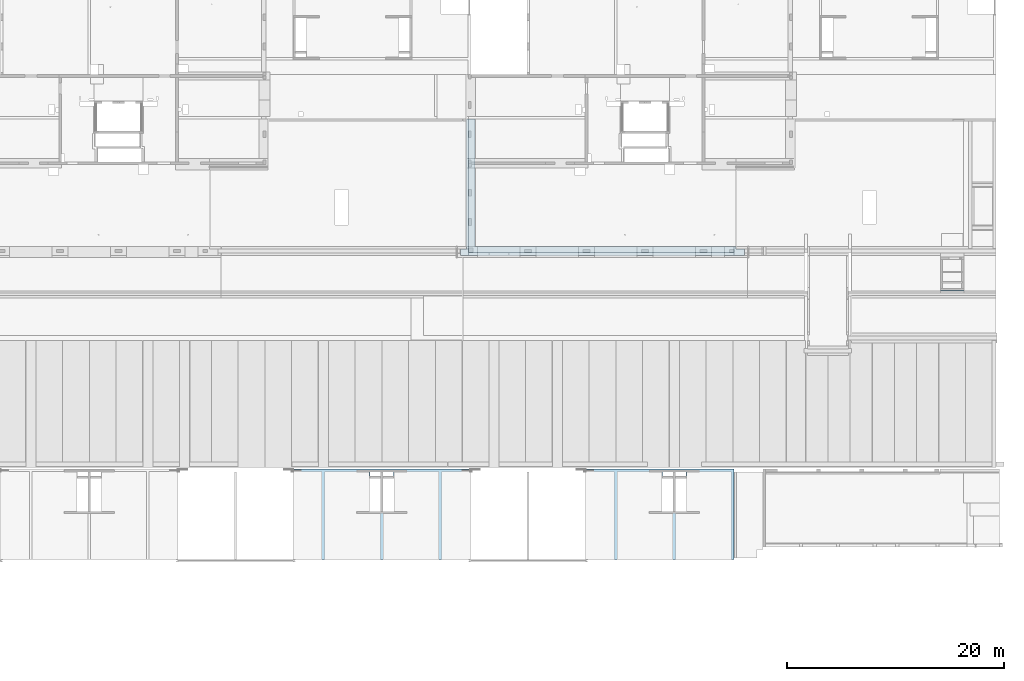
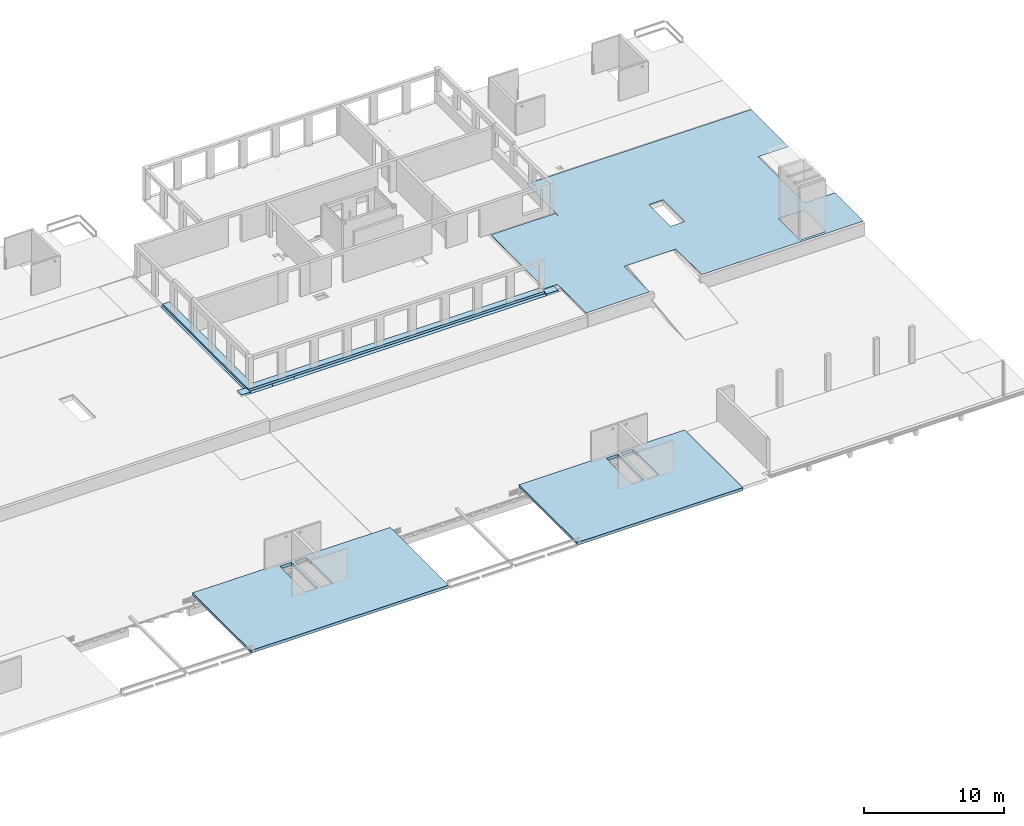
# One storey, part 34 of 36: 4 slabs.
"""IFC2X3 building model written with IfcOpenShell, lengths in millimetres."""

from ifc_helpers import new_model, entity, si_unit, converted_unit, derived_unit, direction, frame, origin, place, context, subcontext, project, spatial, faceted_brep, element, save


model = new_model("IFC2X3")

# Units and contexts
model_context = context("Model", 3, precision=0.01, world=origin(), true_north=direction((6.12303176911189e-17, 1.0)))
body_context = subcontext(model_context, "Body", "Model", "MODEL_VIEW")
ifc_project = project(units=[si_unit("LENGTHUNIT", "METRE", prefix="MILLI"), si_unit("AREAUNIT", "SQUARE_METRE"), si_unit("VOLUMEUNIT", "CUBIC_METRE"), converted_unit("PLANEANGLEUNIT", "DEGREE", entity("IfcRatioMeasure", 0.0174532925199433), si_unit("PLANEANGLEUNIT", "RADIAN"), dimensions=[0, 0, 0, 0, 0, 0, 0]), si_unit("MASSUNIT", "GRAM", prefix="KILO"), derived_unit("MASSDENSITYUNIT", [(si_unit("MASSUNIT", "GRAM", prefix="KILO"), 1), (si_unit("LENGTHUNIT", "METRE"), -3)]), si_unit("TIMEUNIT", "SECOND"), si_unit("FREQUENCYUNIT", "HERTZ"), si_unit("THERMODYNAMICTEMPERATUREUNIT", "DEGREE_CELSIUS"), derived_unit("THERMALTRANSMITTANCEUNIT", [(si_unit("MASSUNIT", "GRAM", prefix="KILO"), 1), (si_unit("THERMODYNAMICTEMPERATUREUNIT", "KELVIN"), -1), (si_unit("TIMEUNIT", "SECOND"), -3)]), derived_unit("VOLUMETRICFLOWRATEUNIT", [(si_unit("LENGTHUNIT", "METRE"), 3), (si_unit("TIMEUNIT", "SECOND"), -1)]), si_unit("ELECTRICCURRENTUNIT", "AMPERE"), si_unit("ELECTRICVOLTAGEUNIT", "VOLT"), si_unit("POWERUNIT", "WATT"), si_unit("FORCEUNIT", "NEWTON", prefix="KILO"), si_unit("ILLUMINANCEUNIT", "LUX"), si_unit("LUMINOUSFLUXUNIT", "LUMEN"), si_unit("LUMINOUSINTENSITYUNIT", "CANDELA"), derived_unit("USERDEFINED", [(si_unit("MASSUNIT", "GRAM", prefix="KILO"), -1), (si_unit("LENGTHUNIT", "METRE"), -2), (si_unit("TIMEUNIT", "SECOND"), 3), (si_unit("LUMINOUSFLUXUNIT", "LUMEN"), 1)]), derived_unit("LINEARVELOCITYUNIT", [(si_unit("LENGTHUNIT", "METRE"), 1), (si_unit("TIMEUNIT", "SECOND"), -1)]), si_unit("PRESSUREUNIT", "PASCAL"), derived_unit("USERDEFINED", [(si_unit("LENGTHUNIT", "METRE"), -2), (si_unit("MASSUNIT", "GRAM", prefix="KILO"), 1), (si_unit("TIMEUNIT", "SECOND"), -2)])], contexts=[model_context])

# Site, building, storey
site_placement = place(None, origin())
site = spatial("IfcSite", under=ifc_project, at=site_placement, Name="Default", CompositionType="ELEMENT")
building_placement = place(site_placement, origin())
building = spatial("IfcBuilding", under=site, at=building_placement, Name="niet gebruiken", CompositionType="ELEMENT")
storey_placement = place(building_placement, frame((0.0, 0.0, 12600.0)))
storey = spatial("IfcBuildingStorey", under=building, at=storey_placement, Name="04 vierde verdieping", CompositionType="ELEMENT", Elevation=12600.0)

# Slabs
slab_1_placement = place(storey_placement, origin())
element("IfcSlab", 1, at=slab_1_placement, inside=storey, Name="Floor:NLRS_23.21_FL_breedplaat d=70/250_schil apart_gen", ObjectType="Floor:NLRS_23.21_FL_breedplaat d=70/250_schil apart_gen", PredefinedType="FLOOR", context=body_context, shape_type="Brep", body=[
    faceted_brep([(59320.0, 8746.0, -340.0), (75680.0, 8746.0, -340.0), (75680.0, 8516.0, -340.0), (73005.0, 8516.0, -340.0), (73005.0, 420.0, -340.0), (75680.0, 420.0, -340.0), (75680.0, 400.0, -340.0), (59320.0, 400.0, -340.0), (59320.0, 420.0, -340.0), (61995.0, 420.0, -340.0), (61995.0, 8516.0, -340.0), (59320.0, 8516.0, -340.0), (68595.0, 8496.0, -340.0), (67625.0, 8496.0, -340.0), (67625.0, 4816.0, -340.0), (68625.0, 4816.0, -340.0), (68625.0, 4666.0, -340.0), (67605.0, 4666.0, -340.0), (67605.0, 420.0, -340.0), (72795.0, 420.0, -340.0), (72795.0, 8516.0, -340.0), (68625.0, 8516.0, -340.0), (68625.0, 7916.0, -340.0), (68595.0, 7916.0, -340.0), (67375.0, 8496.0, -340.0), (66405.0, 8496.0, -340.0), (66405.0, 7916.0, -340.0), (66375.0, 7916.0, -340.0), (66375.0, 8516.0, -340.0), (62205.0, 8516.0, -340.0), (62205.0, 420.0, -340.0), (67395.0, 420.0, -340.0), (67395.0, 4666.0, -340.0), (66375.0, 4666.0, -340.0), (66375.0, 4816.0, -340.0), (67375.0, 4816.0, -340.0), (75680.0, 8746.0, -90.0), (59320.0, 8746.0, -90.0), (59320.0, 400.0, -90.0), (75680.0, 400.0, -90.0), (67625.0, 8496.0, -90.0), (68595.0, 8496.0, -90.0), (68595.0, 7916.0, -90.0), (68625.0, 7916.0, -90.0), (68625.0, 4816.0, -90.0), (67625.0, 4816.0, -90.0), (66405.0, 8496.0, -90.0), (67375.0, 8496.0, -90.0), (67375.0, 4816.0, -90.0), (66375.0, 4816.0, -90.0), (66375.0, 7916.0, -90.0), (66405.0, 7916.0, -90.0), (75680.0, 420.0, -270.0), (75680.0, 8516.0, -270.0), (59320.0, 8516.0, -270.0), (59320.0, 420.0, -270.0), (66375.0, 4816.0, -270.0), (66375.0, 7916.0, -270.0), (68625.0, 4816.0, -270.0), (68625.0, 7916.0, -270.0), (61995.0, 420.0, -270.0), (61995.0, 8516.0, -270.0), (62205.0, 8516.0, -270.0), (66375.0, 8516.0, -270.0), (66375.0, 4666.0, -270.0), (67395.0, 4666.0, -270.0), (67395.0, 420.0, -270.0), (62205.0, 420.0, -270.0), (67605.0, 4666.0, -270.0), (68625.0, 4666.0, -270.0), (68625.0, 8516.0, -270.0), (72795.0, 8516.0, -270.0), (72795.0, 420.0, -270.0), (67605.0, 420.0, -270.0), (73005.0, 8516.0, -270.0), (73005.0, 420.0, -270.0)], [[[0, 1, 2, 3, 4, 5, 6, 7, 8, 9, 10, 11], [12, 13, 14, 15, 16, 17, 18, 19, 20, 21, 22, 23], [24, 25, 26, 27, 28, 29, 30, 31, 32, 33, 34, 35]], [[36, 37, 38, 39], [40, 41, 42, 43, 44, 45], [46, 47, 48, 49, 50, 51]], [[1, 0, 37, 36]], [[36, 39, 6, 5, 52, 53, 2, 1]], [[7, 6, 39, 38]], [[38, 37, 0, 11, 54, 55, 8, 7]], [[40, 13, 12, 41]], [[13, 40, 45, 14]], [[41, 12, 23, 42]], [[46, 25, 24, 47]], [[47, 24, 35, 48]], [[25, 46, 51, 26]], [[48, 35, 34, 56, 49]], [[50, 49, 56, 57]], [[27, 26, 51, 50, 57]], [[14, 45, 44, 58, 15]], [[23, 22, 59, 43, 42]], [[44, 43, 59, 58]], [[60, 55, 54, 61]], [[55, 60, 9, 8]], [[60, 61, 10, 9]], [[61, 54, 11, 10]], [[62, 63, 57, 56, 64, 65, 66, 67]], [[66, 65, 32, 31]], [[67, 66, 31, 30]], [[63, 62, 29, 28]], [[63, 28, 27, 57]], [[65, 64, 33, 32]], [[62, 67, 30, 29]], [[68, 69, 58, 59, 70, 71, 72, 73]], [[68, 73, 18, 17]], [[73, 72, 19, 18]], [[71, 70, 21, 20]], [[69, 16, 15, 58]], [[69, 68, 17, 16]], [[72, 71, 20, 19]], [[74, 53, 52, 75]], [[75, 52, 5, 4]], [[74, 75, 4, 3]], [[53, 74, 3, 2]], [[21, 70, 59, 22]], [[33, 64, 56, 34]]]),
])
slab_2_placement = place(storey_placement, origin())
element("IfcSlab", 2, at=slab_2_placement, inside=storey, Name="Floor:NLRS_23.21_FL_breedplaat d=70/250_schil apart_gen", ObjectType="Floor:NLRS_23.21_FL_breedplaat d=70/250_schil apart_gen", PredefinedType="FLOOR", context=body_context, shape_type="Brep", body=[
    faceted_brep([(86320.0, 8746.0, -340.0), (100025.0, 8746.0, -340.0), (100025.0, 8496.0, -340.0), (100025.0, 400.0, -340.0), (86320.0, 400.0, -340.0), (86320.0, 420.0, -340.0), (88995.0, 420.0, -340.0), (88995.0, 8516.0, -340.0), (86320.0, 8516.0, -340.0), (94375.0, 8496.0, -340.0), (93405.0, 8496.0, -340.0), (93405.0, 7916.0, -340.0), (93375.0, 7916.0, -340.0), (93375.0, 8516.0, -340.0), (89205.0, 8516.0, -340.0), (89205.0, 420.0, -340.0), (94395.0, 420.0, -340.0), (94395.0, 4666.0, -340.0), (93375.0, 4666.0, -340.0), (93375.0, 4816.0, -340.0), (94375.0, 4816.0, -340.0), (95595.0, 8496.0, -340.0), (94625.0, 8496.0, -340.0), (94625.0, 4816.0, -340.0), (95625.0, 4816.0, -340.0), (95625.0, 4666.0, -340.0), (94605.0, 4666.0, -340.0), (94605.0, 420.0, -340.0), (99795.0, 420.0, -340.0), (99795.0, 8516.0, -340.0), (95625.0, 8516.0, -340.0), (95625.0, 7916.0, -340.0), (95595.0, 7916.0, -340.0), (100025.0, 8746.0, -90.0), (86320.0, 8746.0, -90.0), (86320.0, 400.0, -90.0), (100025.0, 400.0, -90.0), (93405.0, 8496.0, -90.0), (94375.0, 8496.0, -90.0), (94375.0, 4816.0, -90.0), (93375.0, 4816.0, -90.0), (93375.0, 7916.0, -90.0), (93405.0, 7916.0, -90.0), (94625.0, 8496.0, -90.0), (95595.0, 8496.0, -90.0), (95595.0, 7916.0, -90.0), (95625.0, 7916.0, -90.0), (95625.0, 4816.0, -90.0), (94625.0, 4816.0, -90.0), (86320.0, 8516.0, -270.0), (86320.0, 420.0, -270.0), (93375.0, 4816.0, -270.0), (93375.0, 7916.0, -270.0), (95625.0, 4816.0, -270.0), (95625.0, 7916.0, -270.0), (88995.0, 420.0, -270.0), (88995.0, 8516.0, -270.0), (89205.0, 8516.0, -270.0), (93375.0, 8516.0, -270.0), (93375.0, 4666.0, -270.0), (94395.0, 4666.0, -270.0), (94395.0, 420.0, -270.0), (89205.0, 420.0, -270.0), (94605.0, 4666.0, -270.0), (95625.0, 4666.0, -270.0), (95625.0, 8516.0, -270.0), (99795.0, 8516.0, -270.0), (99795.0, 420.0, -270.0), (94605.0, 420.0, -270.0)], [[[0, 1, 2, 3, 4, 5, 6, 7, 8], [9, 10, 11, 12, 13, 14, 15, 16, 17, 18, 19, 20], [21, 22, 23, 24, 25, 26, 27, 28, 29, 30, 31, 32]], [[33, 34, 35, 36], [37, 38, 39, 40, 41, 42], [43, 44, 45, 46, 47, 48]], [[1, 0, 34, 33]], [[3, 2, 1, 33, 36]], [[4, 3, 36, 35]], [[35, 34, 0, 8, 49, 50, 5, 4]], [[37, 10, 9, 38]], [[38, 9, 20, 39]], [[10, 37, 42, 11]], [[43, 22, 21, 44]], [[22, 43, 48, 23]], [[44, 21, 32, 45]], [[39, 20, 19, 51, 40]], [[41, 40, 51, 52]], [[12, 11, 42, 41, 52]], [[23, 48, 47, 53, 24]], [[32, 31, 54, 46, 45]], [[47, 46, 54, 53]], [[55, 50, 49, 56]], [[50, 55, 6, 5]], [[55, 56, 7, 6]], [[56, 49, 8, 7]], [[57, 58, 52, 51, 59, 60, 61, 62]], [[61, 60, 17, 16]], [[62, 61, 16, 15]], [[58, 57, 14, 13]], [[58, 13, 12, 52]], [[60, 59, 18, 17]], [[57, 62, 15, 14]], [[63, 64, 53, 54, 65, 66, 67, 68]], [[63, 68, 27, 26]], [[68, 67, 28, 27]], [[66, 65, 30, 29]], [[64, 25, 24, 53]], [[64, 63, 26, 25]], [[67, 66, 29, 28]], [[30, 65, 54, 31]], [[18, 59, 51, 19]]]),
])
slab_3_placement = place(storey_placement, origin())
element("IfcSlab", 3, at=slab_3_placement, inside=storey, Name="Floor:NLRS_23.21_FL_beton ihwg d=250_gen", ObjectType="Floor:NLRS_23.21_FL_beton ihwg d=250_gen", PredefinedType="FLOOR", context=body_context, shape_type="Brep", body=[
    faceted_brep([(74755.0, 28456.0, -340.0), (79181.249999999, 28573.524047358, -340.0), (79190.624999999, 28573.524047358, -340.0), (77418.749999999, 28573.524047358, -340.0), (79200.0, 28573.524047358, -340.0), (79209.374999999, 28573.524047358, -340.0), (79218.749999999, 28573.524047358, -340.0), (100960.0, 28456.0, -340.0), (77409.374999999, 28573.524047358, -340.0), (77400.0, 28573.524047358, -340.0), (77390.624999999, 28573.524047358, -340.0), (77381.249999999, 28573.524047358, -340.0), (76105.0, 29286.0, -340.0), (75325.0, 29081.0, -340.0), (74755.0, 29081.0, -340.0), (75325.0, 29306.0, -340.0), (75325.0, 36556.0, -340.0), (76105.0, 36576.0, -340.0), (76105.0, 37386.0, -340.0), (75325.0, 37406.0, -340.0), (76105.0, 41041.0, -340.0), (75325.0, 41041.0, -340.0), (77376.562499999, 28581.6430355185, -340.0), (77371.874999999, 28589.7620236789, -340.0), (77367.2728205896, 28597.7332322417, -340.0), (77362.499999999, 28606.0, -340.0), (77367.187499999, 28614.1189881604, -340.0), (77371.874999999, 28622.2379763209, -340.0), (77376.562499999, 28630.3569644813, -340.0), (77381.249999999, 28638.4759526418, -340.0), (77390.624999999, 28638.4759526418, -340.0), (77400.0, 28638.4759526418, -340.0), (77409.374999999, 28638.4759526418, -340.0), (77418.749999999, 28638.4759526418, -340.0), (79181.249999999, 28638.4759526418, -340.0), (79190.624999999, 28638.4759526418, -340.0), (79200.0, 28638.4759526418, -340.0), (79209.374999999, 28638.4759526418, -340.0), (79218.749999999, 28638.4759526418, -340.0), (100175.0, 29286.0, -340.0), (79223.437499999, 28630.3569644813, -340.0), (79228.124999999, 28622.2379763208, -340.0), (79232.7271793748, 28614.2667678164, -340.0), (79237.499999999, 28606.0, -340.0), (100175.0, 29081.0, -340.0), (100960.0, 29081.0, -340.0), (79223.437499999, 28581.6430355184, -340.0), (79228.124999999, 28589.7620236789, -340.0), (79232.812499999, 28597.8810118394, -340.0), (79176.562499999, 28630.3569644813, -340.0), (79171.874999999, 28622.2379763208, -340.0), (79167.187499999, 28614.1189881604, -340.0), (79162.499999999, 28606.0, -340.0), (77423.437499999, 28630.3569644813, -340.0), (77428.124999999, 28622.2379763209, -340.0), (77432.7271793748, 28614.2667678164, -340.0), (77437.499999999, 28606.0, -340.0), (79167.2728205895, 28597.7332322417, -340.0), (79171.874999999, 28589.7620236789, -340.0), (79176.562499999, 28581.6430355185, -340.0), (77423.437499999, 28581.6430355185, -340.0), (77428.124999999, 28589.7620236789, -340.0), (77432.812499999, 28597.8810118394, -340.0), (76105.0, 41041.0, -90.0), (75500.0, 41041.0, -90.0), (75500.0, 28756.0, -90.0), (100000.0, 28756.0, -90.0), (100000.0, 29286.0, -90.0), (76105.0, 29286.0, -90.0), (100960.0, 28456.0, -160.0), (100000.0, 28456.0, -160.0), (100000.0, 28456.0, -305.050014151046), (75500.0, 28456.0, -305.050014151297), (75500.0, 28456.0, -150.0), (74755.0, 28456.0, -150.0), (74755.0, 29081.0, -150.0), (100000.0, 29286.0, -150.0), (100175.0, 29286.0, -150.0), (100175.0, 29286.0, -270.0), (76105.0, 29286.0, -270.0), (100960.0, 29081.0, -160.0), (75500.0, 29081.0, -150.0), (75500.0, 29081.0, -240.0), (75325.0, 29081.0, -240.0), (100175.0, 29081.0, -160.0), (75325.0, 41041.0, -240.0), (76105.0, 41041.0, -240.0), (75500.0, 41041.0, -240.0), (100175.0, 29081.0, -150.0), (75500.0, 28756.0, -150.0), (100000.0, 29081.0, -150.0), (75500.0, 28756.0, -305.050014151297), (100000.0, 28756.0, -160.0), (100000.0, 28756.0, -305.050014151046), (79218.749999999, 28573.524047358, -305.050014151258), (79209.374999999, 28573.524047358, -305.050014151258), (79200.0, 28573.524047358, -305.050014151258), (79190.624999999, 28573.524047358, -305.050014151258), (79181.249999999, 28573.524047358, -305.050014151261), (79176.6478205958, 28581.4952559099, -305.050014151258), (79172.0456411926, 28589.4664644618, -305.050014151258), (79167.2728205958, 28597.7332322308, -305.050014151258), (79162.499999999, 28606.0, -305.050014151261), (77418.749999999, 28573.524047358, -305.050014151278), (77409.374999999, 28573.524047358, -305.050014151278), (77400.0, 28573.524047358, -305.050014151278), (77390.624999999, 28573.524047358, -305.050014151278), (77381.249999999, 28573.524047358, -305.050014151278), (77376.6478205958, 28581.4952559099, -305.050014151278), (77372.0456411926, 28589.4664644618, -305.050014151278), (77367.2728205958, 28597.7332322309, -305.050014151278), (77362.499999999, 28606.0, -305.050014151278), (77381.249999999, 28638.4759526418, -305.050014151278), (77390.624999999, 28638.4759526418, -305.050014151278), (77400.0, 28638.4759526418, -305.050014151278), (77409.374999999, 28638.4759526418, -305.050014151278), (77418.749999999, 28638.4759526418, -305.050014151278), (79181.249999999, 28638.4759526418, -305.050014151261), (79190.624999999, 28638.4759526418, -305.050014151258), (79200.0, 28638.4759526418, -305.050014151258), (79209.374999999, 28638.4759526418, -305.050014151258), (79218.749999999, 28638.4759526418, -305.050014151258), (79223.3521793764, 28630.5047441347, -305.050014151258), (79227.9543587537, 28622.5335356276, -305.050014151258), (79232.7271793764, 28614.2667678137, -305.050014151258), (79237.499999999, 28606.0, -305.050014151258), (77423.3521793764, 28630.5047441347, -305.050014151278), (77427.9543587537, 28622.5335356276, -305.050014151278), (77432.7271793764, 28614.2667678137, -305.050014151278), (77437.499999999, 28606.0, -305.050014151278), (77367.2728201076, 28614.2667669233, -305.012731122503), (77432.7271798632, 28597.7332330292, -305.012731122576), (79232.7271798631, 28597.7332330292, -305.01273112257), (79167.2728201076, 28614.2667669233, -305.012731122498), (100000.0, 29081.0, -160.0), (77423.437499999, 28581.6430355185, -305.037510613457), (77428.124999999, 28589.7620236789, -305.025007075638), (77376.562499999, 28630.3569644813, -305.037510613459), (77371.874999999, 28622.2379763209, -305.025007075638), (79223.437499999, 28581.6430355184, -305.037510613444), (79228.124999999, 28589.7620236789, -305.025007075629), (79176.562499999, 28630.3569644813, -305.037510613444), (79171.874999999, 28622.2379763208, -305.025007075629)], [[[0, 1, 2]], [[3, 1, 0]], [[0, 2, 4]], [[0, 4, 5]], [[0, 5, 6]], [[0, 6, 7]], [[0, 8, 3]], [[0, 9, 8]], [[0, 10, 9]], [[0, 11, 10]], [[0, 12, 11]], [[13, 12, 0]], [[0, 14, 13]], [[15, 12, 13]], [[12, 15, 16]], [[16, 17, 12]], [[16, 18, 17]], [[16, 19, 18]], [[18, 19, 20]], [[19, 21, 20]], [[12, 22, 11]], [[12, 23, 22]], [[12, 24, 23]], [[12, 25, 24]], [[12, 26, 25]], [[12, 27, 26]], [[12, 28, 27]], [[12, 29, 28]], [[12, 30, 29]], [[12, 31, 30]], [[12, 32, 31]], [[12, 33, 32]], [[12, 34, 33]], [[12, 35, 34]], [[12, 36, 35]], [[12, 37, 36]], [[12, 38, 37]], [[39, 38, 12]], [[39, 40, 38]], [[39, 41, 40]], [[39, 42, 41]], [[39, 43, 42]], [[39, 44, 43]], [[44, 7, 6]], [[45, 7, 44]], [[44, 6, 46]], [[44, 46, 47]], [[44, 47, 48]], [[44, 48, 43]], [[33, 34, 49]], [[33, 49, 50]], [[33, 50, 51]], [[33, 51, 52]], [[52, 53, 33]], [[52, 54, 53]], [[52, 55, 54]], [[52, 56, 55]], [[56, 52, 57]], [[56, 57, 58]], [[56, 58, 59]], [[56, 59, 1]], [[1, 3, 60]], [[1, 60, 61]], [[1, 61, 62]], [[1, 62, 56]], [[63, 64, 65, 66, 67, 68]], [[7, 69, 70, 71, 72, 73, 74, 0]], [[14, 0, 74, 75]], [[76, 77, 78, 39, 12, 79, 68, 67]], [[7, 45, 80, 69]], [[14, 75, 81, 82, 83, 13]], [[45, 44, 84, 80]], [[15, 13, 83, 85, 21, 19, 16]], [[86, 20, 21, 85, 87, 64, 63]], [[17, 18, 20, 86, 63, 68, 79, 12]], [[44, 39, 78, 77, 88, 84]], [[82, 81, 89, 65, 64, 87]], [[89, 81, 75, 74, 73]], [[88, 77, 76, 90]], [[91, 89, 73, 72]], [[70, 92, 93, 71]], [[66, 65, 89, 91, 93, 92]], [[72, 71, 94, 95, 96, 97, 98, 99, 100, 101, 102, 103, 104, 105, 106, 107, 108, 109, 110, 111, 91]], [[91, 112, 113, 114, 115, 116, 117, 118, 119, 120, 121, 122, 123, 124, 125, 71, 93]], [[102, 116, 126, 127, 128, 129]], [[91, 111, 130]], [[102, 129, 131]], [[71, 125, 132]], [[116, 102, 133]], [[83, 82, 87, 85]], [[90, 76, 67, 66, 92, 134]], [[88, 90, 134, 84]], [[84, 134, 92, 70, 69, 80]], [[104, 103, 3, 8, 9, 10, 11, 107, 106, 105]], [[95, 94, 6, 5, 4, 2, 1, 98, 97, 96]], [[61, 60, 3, 103, 135, 136, 131, 129, 56, 62]], [[109, 108, 107, 11, 22, 23, 24, 25, 111, 110]], [[112, 29, 30, 31, 32, 33, 116, 115, 114, 113]], [[117, 34, 35, 36, 37, 38, 121, 120, 119, 118]], [[27, 28, 29, 112, 137, 138, 130, 111, 25, 26]], [[127, 126, 116, 33, 53, 54, 55, 56, 129, 128]], [[47, 46, 6, 94, 139, 140, 132, 125, 43, 48]], [[100, 99, 98, 1, 59, 58, 57, 52, 102, 101]], [[50, 49, 34, 117, 141, 142, 133, 102, 52, 51]], [[123, 122, 121, 38, 40, 41, 42, 43, 125, 124]], [[91, 130, 138, 137, 112]], [[102, 131, 136, 135, 103]], [[71, 132, 140, 139, 94]], [[116, 133, 142, 141, 117]]]),
])
slab_4_placement = place(storey_placement, origin())
element("IfcSlab", 4, at=slab_4_placement, inside=storey, Name="Floor:NLRS_23.21_FL_beton ihwg d=var_gen", ObjectType="Floor:NLRS_23.21_FL_beton ihwg d=var_gen", PredefinedType="FLOOR", context=body_context, shape_type="Brep", body=[
    faceted_brep([(105625.0, 41061.0, -161.0), (124200.0, 41061.0, -161.0), (124200.0, 35705.0, -161.0), (121700.0, 35705.0, -161.0), (121700.0, 29081.0, -161.0), (124200.0, 29081.0, -161.0), (124200.0, 25001.0, -161.0), (121225.0, 25001.0, -161.0), (119075.0, 25001.0, -161.0), (110825.0, 25001.0, -161.0), (110825.0, 28681.0, -161.0), (106525.0, 28681.0, -161.0), (106525.0, 25001.0, -161.0), (101260.0, 25001.0, -161.0), (101260.0, 29101.0, -161.0), (100225.0, 29101.0, -161.0), (100225.0, 36856.0, -161.0), (105575.0, 36856.0, -161.0), (105575.0, 36556.0, -161.0), (105625.0, 36556.0, -161.0), (111900.0, 31356.0, -161.0), (113100.0, 31356.0, -161.0), (113100.0, 34456.0, -161.0), (111900.0, 34456.0, -161.0), (121225.0, 28306.0, -161.0), (119075.0, 28306.0, -161.0), (119075.0, 25226.0, -161.0), (121225.0, 25226.0, -161.0), (124200.0, 41061.0, -140.0), (105625.0, 41061.0, -140.0), (124200.0, 25001.0, -160.0), (124200.0, 29081.0, -154.919053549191), (110825.0, 25001.0, -160.0), (100225.0, 29101.0, -154.894146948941), (100225.0, 36556.0, -145.610211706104), (100225.0, 36556.0, -150.0), (100225.0, 36856.0, -150.0), (105625.0, 36856.0, -145.236612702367), (105625.0, 36556.0, -145.610211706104), (101260.0, 29101.0, -154.894146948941), (101260.0, 25001.0, -160.0), (106525.0, 25001.0, -160.0), (106525.0, 28681.0, -155.417185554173), (110825.0, 28681.0, -155.417185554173), (121700.0, 29081.0, -154.919053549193), (121700.0, 35705.0, -146.669987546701), (124200.0, 35705.0, -146.669987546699), (113100.0, 31356.0, -152.085927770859), (111900.0, 31356.0, -152.085927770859), (111900.0, 34456.0, -148.225404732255), (113100.0, 34456.0, -148.225404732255), (119075.0, 28306.0, -155.884184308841), (121225.0, 28306.0, -155.884184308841), (121225.0, 25226.0, -159.719800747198), (119075.0, 25226.0, -159.719800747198), (105575.0, 36856.0, -150.0), (105575.0, 36556.0, -150.0)], [[[0, 1, 2, 3, 4, 5, 6, 7, 8, 9, 10, 11, 12, 13, 14, 15, 16, 17, 18, 19], [20, 21, 22, 23], [24, 25, 26, 27]], [[28, 1, 0, 29]], [[30, 6, 5, 31]], [[6, 30, 32, 9, 8, 7]], [[16, 15, 33, 34, 35, 36]], [[28, 29, 37, 38, 34, 33, 39, 40, 41, 42, 43, 32, 30, 31, 44, 45, 46], [47, 48, 49, 50], [51, 52, 53, 54]], [[17, 16, 36, 55]], [[0, 19, 38, 37, 29]], [[44, 4, 3, 45]], [[4, 44, 31, 5]], [[20, 48, 47, 21]], [[21, 47, 50, 22]], [[22, 50, 49, 23]], [[48, 20, 23, 49]], [[39, 14, 13, 40]], [[14, 39, 33, 15]], [[45, 3, 2, 46]], [[24, 52, 51, 25]], [[25, 51, 54, 26]], [[26, 54, 53, 27]], [[52, 24, 27, 53]], [[35, 56, 55, 36]], [[18, 17, 55, 56]], [[19, 18, 56, 35, 34, 38]], [[11, 42, 41, 12]], [[43, 10, 9, 32]], [[42, 11, 10, 43]], [[40, 13, 12, 41]], [[1, 28, 46, 2]]]),
])

save(model, "model.ifc")
